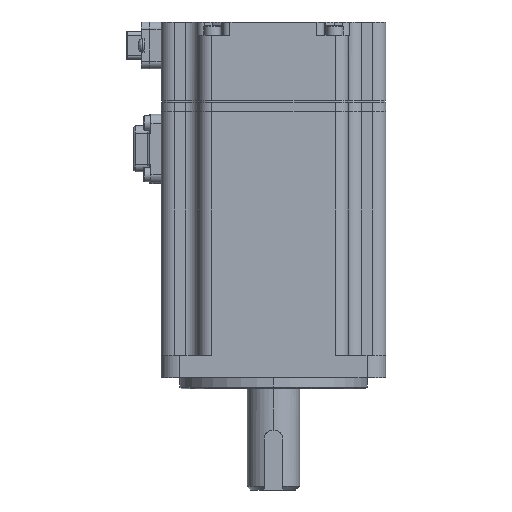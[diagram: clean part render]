
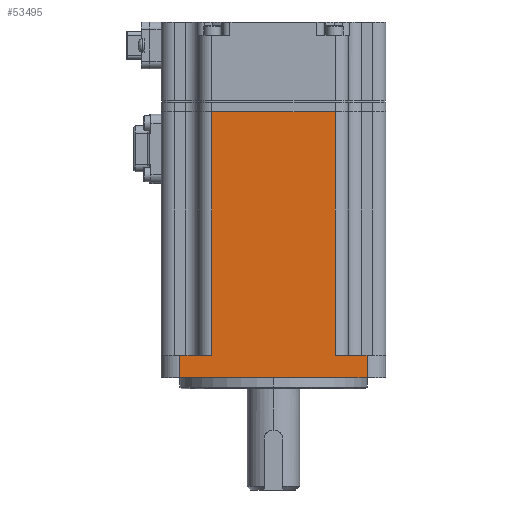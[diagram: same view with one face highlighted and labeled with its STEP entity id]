
A CAD part, left-side view. The second image highlights one B-rep face of the part: STEP entity #53495.
In plain terms, the highlighted planar face has unit normal (-1, 0, 0).
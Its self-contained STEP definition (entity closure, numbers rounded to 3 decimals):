
#510 = CARTESIAN_POINT ( 'NONE',  ( -30., 30., 9. ) ) ;
#771 = EDGE_CURVE ( 'NONE', #47000, #52086, #18747, .T. ) ;
#1681 = EDGE_CURVE ( 'NONE', #48097, #39569, #2162, .T. ) ;
#2162 = LINE ( 'NONE', #20122, #24676 ) ;
#4359 = CARTESIAN_POINT ( 'NONE',  ( -30., -25., 74. ) ) ;
#7087 = CARTESIAN_POINT ( 'NONE',  ( -30., -16.5, -86.632 ) ) ;
#8466 = ORIENTED_EDGE ( 'NONE', *, *, #56746, .F. ) ;
#9375 = CARTESIAN_POINT ( 'NONE',  ( -30., 30., 9. ) ) ;
#10185 = VERTEX_POINT ( 'NONE', #26995 ) ;
#10423 = CARTESIAN_POINT ( 'NONE',  ( -30., 25., 74. ) ) ;
#11482 = LINE ( 'NONE', #51561, #55612 ) ;
#14300 = LINE ( 'NONE', #10423, #44848 ) ;
#15155 = DIRECTION ( 'NONE',  ( 0., 1., 0. ) ) ;
#16098 = CARTESIAN_POINT ( 'NONE',  ( -30., 30., 74. ) ) ;
#18004 = VECTOR ( 'NONE', #15155, 1000. ) ;
#18548 = CARTESIAN_POINT ( 'NONE',  ( -30., 25., 9. ) ) ;
#18747 = LINE ( 'NONE', #510, #18004 ) ;
#18939 = EDGE_CURVE ( 'NONE', #52086, #10185, #30116, .T. ) ;
#19808 = DIRECTION ( 'NONE',  ( 0., 1., 0. ) ) ;
#20112 = VECTOR ( 'NONE', #34054, 1000. ) ;
#20122 = CARTESIAN_POINT ( 'NONE',  ( -30., 30., 3. ) ) ;
#22043 = LINE ( 'NONE', #4359, #33253 ) ;
#23228 = EDGE_CURVE ( 'NONE', #41535, #52551, #11482, .T. ) ;
#24676 = VECTOR ( 'NONE', #19808, 1000. ) ;
#26013 = EDGE_CURVE ( 'NONE', #48097, #47000, #22043, .T. ) ;
#26169 = ORIENTED_EDGE ( 'NONE', *, *, #26013, .T. ) ;
#26632 = CARTESIAN_POINT ( 'NONE',  ( -30., 25., 3. ) ) ;
#26762 = DIRECTION ( 'NONE',  ( 0., 1., 0. ) ) ;
#26995 = CARTESIAN_POINT ( 'NONE',  ( -30., -16.5, 74. ) ) ;
#27011 = CARTESIAN_POINT ( 'NONE',  ( -30., 16.5, 74. ) ) ;
#27186 = EDGE_CURVE ( 'NONE', #29114, #39569, #14300, .T. ) ;
#28238 = CARTESIAN_POINT ( 'NONE',  ( -30., -25., 9. ) ) ;
#28556 = DIRECTION ( 'NONE',  ( 0., 0., 1. ) ) ;
#29114 = VERTEX_POINT ( 'NONE', #18548 ) ;
#29226 = DIRECTION ( 'NONE',  ( 0., 0., -1. ) ) ;
#29967 = ORIENTED_EDGE ( 'NONE', *, *, #1681, .F. ) ;
#30116 = LINE ( 'NONE', #7087, #33006 ) ;
#31975 = DIRECTION ( 'NONE',  ( 0., 0., -1. ) ) ;
#33006 = VECTOR ( 'NONE', #48330, 1000. ) ;
#33106 = EDGE_LOOP ( 'NONE', ( #29967, #26169, #58375, #54298, #8466, #39940, #38716, #38695 ) ) ;
#33253 = VECTOR ( 'NONE', #40276, 1000. ) ;
#33342 = EDGE_CURVE ( 'NONE', #41535, #29114, #36296, .T. ) ;
#34054 = DIRECTION ( 'NONE',  ( 0., -1., 0. ) ) ;
#36296 = LINE ( 'NONE', #9375, #48525 ) ;
#36948 = CARTESIAN_POINT ( 'NONE',  ( -30., -25., 3. ) ) ;
#38695 = ORIENTED_EDGE ( 'NONE', *, *, #27186, .T. ) ;
#38716 = ORIENTED_EDGE ( 'NONE', *, *, #33342, .T. ) ;
#39126 = CARTESIAN_POINT ( 'NONE',  ( -30., -16.5, 9. ) ) ;
#39569 = VERTEX_POINT ( 'NONE', #26632 ) ;
#39940 = ORIENTED_EDGE ( 'NONE', *, *, #23228, .F. ) ;
#40276 = DIRECTION ( 'NONE',  ( 0., 0., 1. ) ) ;
#41535 = VERTEX_POINT ( 'NONE', #49661 ) ;
#43552 = FACE_OUTER_BOUND ( 'NONE', #33106, .T. ) ;
#44848 = VECTOR ( 'NONE', #31975, 1000. ) ;
#47000 = VERTEX_POINT ( 'NONE', #28238 ) ;
#47665 = AXIS2_PLACEMENT_3D ( 'NONE', #57283, #56980, #29226 ) ;
#48097 = VERTEX_POINT ( 'NONE', #36948 ) ;
#48330 = DIRECTION ( 'NONE',  ( 0., 0., 1. ) ) ;
#48525 = VECTOR ( 'NONE', #26762, 1000. ) ;
#49661 = CARTESIAN_POINT ( 'NONE',  ( -30., 16.5, 9. ) ) ;
#51561 = CARTESIAN_POINT ( 'NONE',  ( -30., 16.5, -86.632 ) ) ;
#52086 = VERTEX_POINT ( 'NONE', #39126 ) ;
#52551 = VERTEX_POINT ( 'NONE', #27011 ) ;
#53495 = ADVANCED_FACE ( 'NONE', ( #43552 ), #57582, .F. ) ;
#54298 = ORIENTED_EDGE ( 'NONE', *, *, #18939, .T. ) ;
#55612 = VECTOR ( 'NONE', #28556, 1000. ) ;
#56746 = EDGE_CURVE ( 'NONE', #52551, #10185, #57039, .T. ) ;
#56980 = DIRECTION ( 'NONE',  ( 1., 0., 0. ) ) ;
#57039 = LINE ( 'NONE', #16098, #20112 ) ;
#57283 = CARTESIAN_POINT ( 'NONE',  ( -30., 30., 74. ) ) ;
#57582 = PLANE ( 'NONE',  #47665 ) ;
#58375 = ORIENTED_EDGE ( 'NONE', *, *, #771, .T. ) ;
